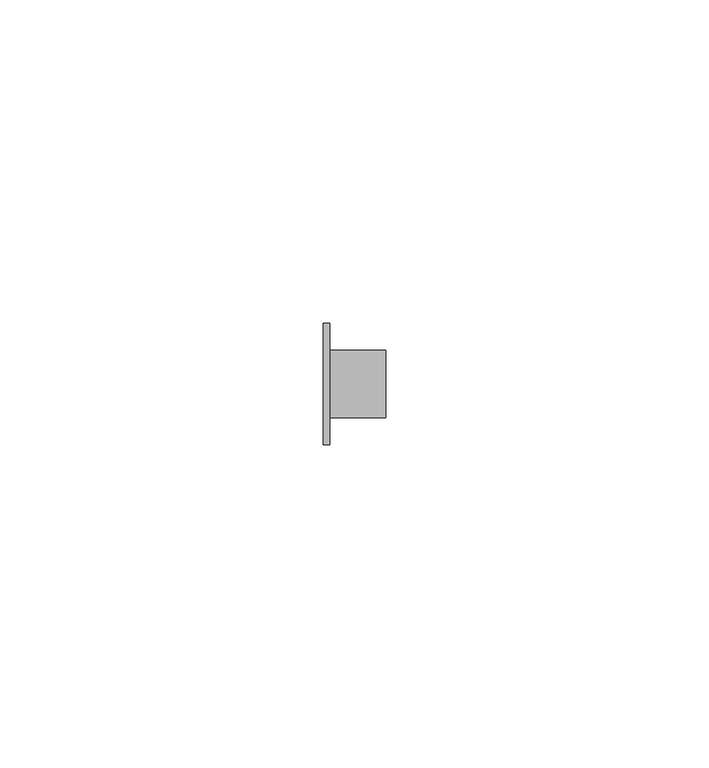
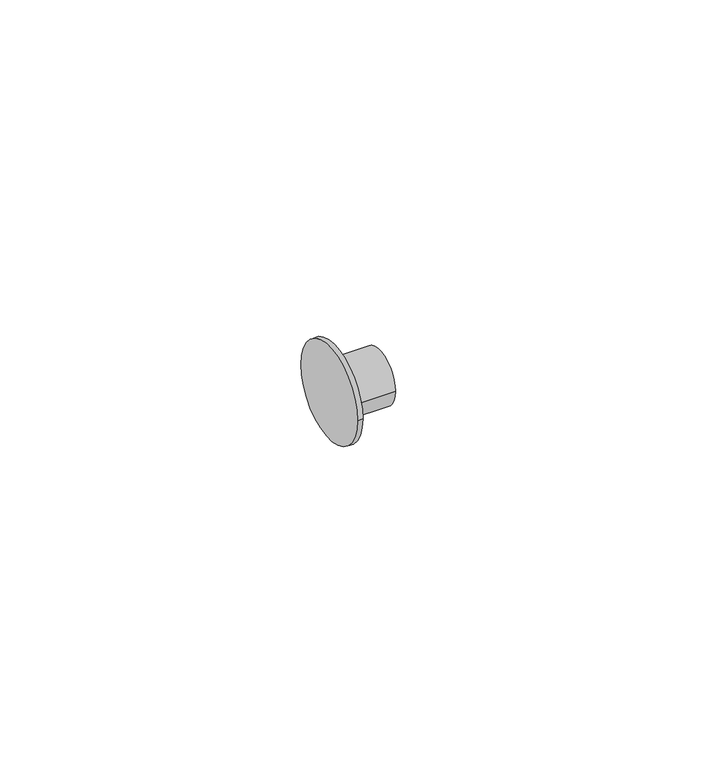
"""IFC4 building model written with IfcOpenShell, lengths in millimetres: pipe fitting geometry, Bucha de redução reta - Soldada - CU : Padrão."""

from ifc_helpers import new_model, si_unit, frame, origin, place, context, project, spatial, circle_curve, source, transform, mapped, element, save
from ifc_brep_helpers import plane_surface, cylinder_surface, advanced_brep


def pipe_fitting_d1254744(model_context):
    return source(origin(), model_context, "Body", "AdvancedBrep", [
        advanced_brep(
        [(0.0, -9.425, 0.0), (0.0, 9.425, 0.0), (1.0, -9.425, 0.0), (1.0, 9.425, 0.0), (1.0, -5.2552, 0.0), (1.0, 5.2552, 0.0), (9.6744, -5.2552, 0.0), (9.6744, 5.2552, 0.0)],
        [
            (0, 1, circle_curve(frame((0.0, 0.0, 0.0), z_axis=(-1.0, 0.0, 0.0), x_axis=(0.0, 1.0, 0.0)), 9.425)),
            (1, 0, circle_curve(frame((0.0, 0.0, 0.0), z_axis=(-1.0, 0.0, 0.0), x_axis=(0.0, 1.0, 0.0)), 9.425)),
            (2, 3, circle_curve(frame((1.0, 0.0, 0.0), z_axis=(1.0, 0.0, 0.0), x_axis=(0.0, 1.0, 0.0)), 9.425)),
            (3, 2, circle_curve(frame((1.0, 0.0, 0.0), z_axis=(1.0, 0.0, 0.0), x_axis=(0.0, 1.0, 0.0)), 9.425)),
            (4, 5, circle_curve(frame((1.0, 0.0, 0.0), z_axis=(-1.0, 0.0, 0.0), x_axis=(0.0, 1.0, 0.0)), 5.2552)),
            (5, 4, circle_curve(frame((1.0, 0.0, 0.0), z_axis=(-1.0, 0.0, 0.0), x_axis=(0.0, 1.0, 0.0)), 5.2552)),
            (0, 2),
            (3, 1),
            (6, 7, circle_curve(frame((9.6744, 0.0, 0.0), z_axis=(1.0, 0.0, 0.0), x_axis=(0.0, 1.0, 0.0)), 5.2552)),
            (7, 6, circle_curve(frame((9.6744, 0.0, 0.0), z_axis=(1.0, 0.0, 0.0), x_axis=(0.0, 1.0, 0.0)), 5.2552)),
            (7, 5),
            (4, 6),
        ],
        [
            plane_surface(frame((0.0, 0.0, 0.0), z_axis=(-1.0, 0.0, 0.0), x_axis=(0.0, 0.0, 1.0))),
            plane_surface(frame((1.0, 0.0, 0.0), z_axis=(1.0, 0.0, 0.0), x_axis=(0.0, 0.0, 1.0))),
            cylinder_surface(frame((0.0, 0.0, 0.0), z_axis=(-1.0, 0.0, 0.0), x_axis=(0.0, 1.0, 0.0)), 9.425),
            plane_surface(frame((9.6744, 0.0, 0.0), z_axis=(1.0, 0.0, 0.0), x_axis=(0.0, 0.0, 1.0))),
            cylinder_surface(frame((1.0, 0.0, 0.0), z_axis=(-1.0, 0.0, 0.0), x_axis=(0.0, 1.0, 0.0)), 5.2552),
        ],
        [
            (0, [[1, 2]]),
            (1, [[3, 4], [5, 6]]),
            (2, [[-1, 7, -4, 8]]),
            (2, [[-2, -8, -3, -7]]),
            (3, [[9, 10]]),
            (4, [[-10, 11, -5, 12]]),
            (4, [[-9, -12, -6, -11]]),
        ],
    ),
    ])


if __name__ == "__main__":
    model = new_model("IFC4")
    model_context = context("Model", 3, world=origin())
    ifc_project = project(units=[si_unit("LENGTHUNIT", "METRE", prefix="MILLI")], contexts=[model_context])
    site = spatial("IfcSite", under=ifc_project)
    building = spatial("IfcBuilding", under=site)
    placement = place(None, origin())
    pipe_fitting_shape = pipe_fitting_d1254744(model_context)
    element("IfcPipeFitting", 1, ObjectType="Bucha de redução reta - Soldada - CU : Padrão", at=placement, inside=building, context=model_context, shape_type="MappedRepresentation", body=[
        mapped(pipe_fitting_shape, transform((0.0, 0.0, 0.0), x_axis=(1.0, 0.0, 0.0), y_axis=(0.0, 1.0, 0.0), z_axis=(0.0, 0.0, 1.0))),
    ])
    save(model, "model.ifc")
